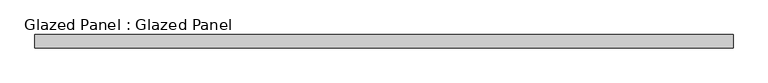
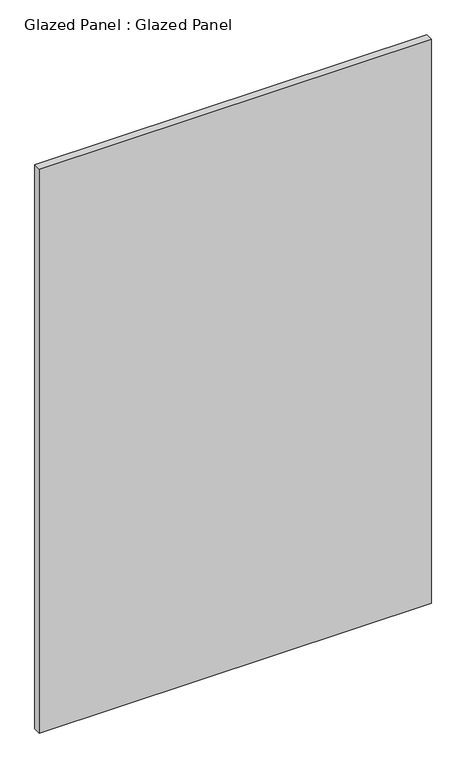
"""IFC4 building model written with IfcOpenShell, lengths in millimetres: plate geometry, Glazed Panel : Glazed Panel."""

from ifc_helpers import new_model, si_unit, origin, origin_with_axes, place, context, project, spatial, polyline, outline, extrude, source, transform, mapped, element, save


def glazed_panel_glazed_panel_d3c8244d(model_context):
    return source(origin(), model_context, "Body", "SweptSolid", [
        extrude(outline(polyline([(670.71875, 38.1), (-670.71875, 38.1), (-670.71875, 63.5), (670.71875, 63.5), (670.71875, 38.1)])), origin_with_axes(), (0.0, 0.0, 1.0), 2038.35),
    ])


if __name__ == "__main__":
    model = new_model("IFC4")
    model_context = context("Model", 3, world=origin())
    ifc_project = project(units=[si_unit("LENGTHUNIT", "METRE", prefix="MILLI")], contexts=[model_context])
    site = spatial("IfcSite", under=ifc_project)
    building = spatial("IfcBuilding", under=site)
    placement = place(None, origin())
    glazed_panel_glazed_panel_shape = glazed_panel_glazed_panel_d3c8244d(model_context)
    element("IfcPlate", 1, ObjectType="Glazed Panel : Glazed Panel", at=placement, inside=building, context=model_context, shape_type="MappedRepresentation", body=[
        mapped(glazed_panel_glazed_panel_shape, transform((0.0, 0.0, 0.0), x_axis=(1.0, 0.0, 0.0), y_axis=(0.0, 1.0, 0.0), z_axis=(0.0, 0.0, 1.0))),
    ])
    save(model, "model.ifc")
